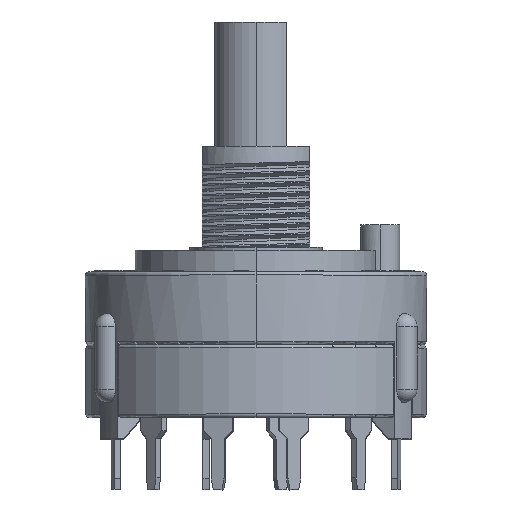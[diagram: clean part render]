
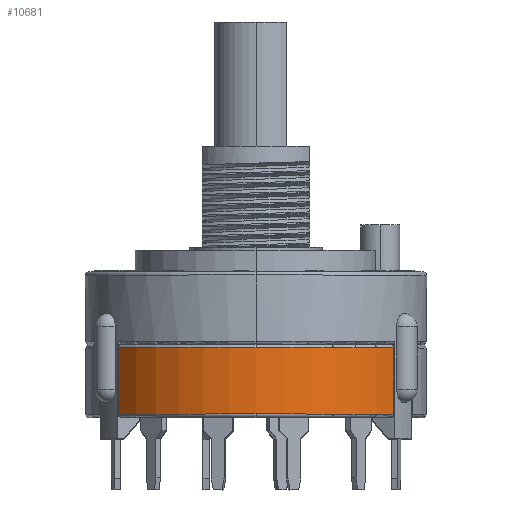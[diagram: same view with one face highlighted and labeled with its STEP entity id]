
A CAD part, top view. The second image highlights one B-rep face of the part: STEP entity #10681.
In plain terms, the highlighted cylindrical face has radius 13.094 mm (diameter 26.187 mm), a partial arc.
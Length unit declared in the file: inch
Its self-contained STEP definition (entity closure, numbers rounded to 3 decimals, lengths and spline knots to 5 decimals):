
#193 = EDGE_CURVE ( 'NONE', #7616, #2856, #8135, .T. ) ;
#779 = VERTEX_POINT ( 'NONE', #36417 ) ;
#899 = AXIS2_PLACEMENT_3D ( 'NONE', #2587, #2404, #38571 ) ;
#2404 = DIRECTION ( 'NONE',  ( 0., -1., 0. ) ) ;
#2587 = CARTESIAN_POINT ( 'NONE',  ( 0., 0.275, 0. ) ) ;
#2856 = VERTEX_POINT ( 'NONE', #31588 ) ;
#3496 = AXIS2_PLACEMENT_3D ( 'NONE', #5882, #11289, #5686 ) ;
#4942 = AXIS2_PLACEMENT_3D ( 'NONE', #15694, #12277, #24678 ) ;
#5324 = AXIS2_PLACEMENT_3D ( 'NONE', #18924, #31108, #21716 ) ;
#5337 = VECTOR ( 'NONE', #9787, 39.37008 ) ;
#5360 = CIRCLE ( 'NONE', #899, 0.5155 ) ;
#5686 = DIRECTION ( 'NONE',  ( 0., 0., 1. ) ) ;
#5882 = CARTESIAN_POINT ( 'NONE',  ( 0., 0.075, 0. ) ) ;
#7616 = VERTEX_POINT ( 'NONE', #36762 ) ;
#7855 = EDGE_CURVE ( 'NONE', #779, #29737, #22642, .T. ) ;
#8135 = CIRCLE ( 'NONE', #4942, 0.5155 ) ;
#9581 = EDGE_CURVE ( 'NONE', #15214, #7616, #5360, .T. ) ;
#9787 = DIRECTION ( 'NONE',  ( 0., 1., 0. ) ) ;
#10681 = ADVANCED_FACE ( 'NONE', ( #15920 ), #18702, .T. ) ;
#11289 = DIRECTION ( 'NONE',  ( 0., 1., 0. ) ) ;
#12277 = DIRECTION ( 'NONE',  ( 0., -1., 0. ) ) ;
#13582 = CARTESIAN_POINT ( 'NONE',  ( -0.41639, 0.505, 0.30391 ) ) ;
#14196 = CARTESIAN_POINT ( 'NONE',  ( 0.41639, 0.275, 0.30391 ) ) ;
#15214 = VERTEX_POINT ( 'NONE', #14196 ) ;
#15694 = CARTESIAN_POINT ( 'NONE',  ( 0., 0.275, 0. ) ) ;
#15823 = LINE ( 'NONE', #13582, #27717 ) ;
#15920 = FACE_OUTER_BOUND ( 'NONE', #26004, .T. ) ;
#17003 = DIRECTION ( 'NONE',  ( 0., 0., 1. ) ) ;
#17484 = ORIENTED_EDGE ( 'NONE', *, *, #25806, .T. ) ;
#17496 = ORIENTED_EDGE ( 'NONE', *, *, #38173, .T. ) ;
#18702 = CYLINDRICAL_SURFACE ( 'NONE', #5324, 0.5155 ) ;
#18924 = CARTESIAN_POINT ( 'NONE',  ( 0., 0.505, 0. ) ) ;
#19397 = CIRCLE ( 'NONE', #22589, 0.5155 ) ;
#19831 = ORIENTED_EDGE ( 'NONE', *, *, #9581, .T. ) ;
#20005 = DIRECTION ( 'NONE',  ( 0., 1., 0. ) ) ;
#21512 = VERTEX_POINT ( 'NONE', #21674 ) ;
#21674 = CARTESIAN_POINT ( 'NONE',  ( 0.41639, 0.075, 0.30391 ) ) ;
#21716 = DIRECTION ( 'NONE',  ( 0., 0., -1. ) ) ;
#21795 = LINE ( 'NONE', #24982, #5337 ) ;
#22232 = DIRECTION ( 'NONE',  ( 0., -1., 0. ) ) ;
#22589 = AXIS2_PLACEMENT_3D ( 'NONE', #22818, #20005, #17003 ) ;
#22642 = CIRCLE ( 'NONE', #3496, 0.5155 ) ;
#22818 = CARTESIAN_POINT ( 'NONE',  ( 0., 0.075, 0. ) ) ;
#24678 = DIRECTION ( 'NONE',  ( 0., 0., 1. ) ) ;
#24982 = CARTESIAN_POINT ( 'NONE',  ( 0.41639, 0.505, 0.30391 ) ) ;
#25806 = EDGE_CURVE ( 'NONE', #29737, #21512, #19397, .T. ) ;
#26004 = EDGE_LOOP ( 'NONE', ( #32464, #17484, #28838, #19831, #26692, #17496 ) ) ;
#26106 = EDGE_CURVE ( 'NONE', #21512, #15214, #21795, .T. ) ;
#26692 = ORIENTED_EDGE ( 'NONE', *, *, #193, .T. ) ;
#27717 = VECTOR ( 'NONE', #22232, 39.37008 ) ;
#28838 = ORIENTED_EDGE ( 'NONE', *, *, #26106, .T. ) ;
#29737 = VERTEX_POINT ( 'NONE', #37755 ) ;
#31108 = DIRECTION ( 'NONE',  ( 0., -1., 0. ) ) ;
#31588 = CARTESIAN_POINT ( 'NONE',  ( -0.41639, 0.275, 0.30391 ) ) ;
#32464 = ORIENTED_EDGE ( 'NONE', *, *, #7855, .T. ) ;
#36417 = CARTESIAN_POINT ( 'NONE',  ( -0.41639, 0.075, 0.30391 ) ) ;
#36762 = CARTESIAN_POINT ( 'NONE',  ( 0., 0.275, 0.5155 ) ) ;
#37755 = CARTESIAN_POINT ( 'NONE',  ( 0., 0.075, 0.5155 ) ) ;
#38173 = EDGE_CURVE ( 'NONE', #2856, #779, #15823, .T. ) ;
#38571 = DIRECTION ( 'NONE',  ( 0., 0., 1. ) ) ;
